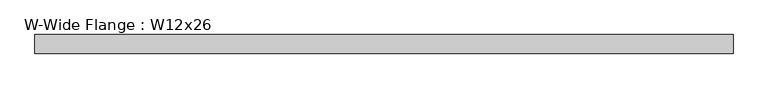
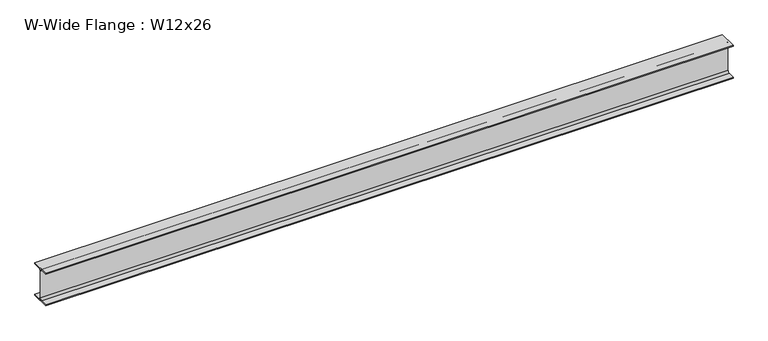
"""IFC4 building model written with IfcOpenShell, lengths in millimetres: beam geometry, W-Wide Flange : W12x26."""

import ifcopenshell
import ifcopenshell.guid

model = None  # the IFC model being written
_history = None  # IfcOwnerHistory: only IFC2X3 demands one
_inside = {}  # id of a spatial element -> (the spatial element, [elements in it])
_under = {}  # id of a project, library or spatial element -> (it, [spatial elements below it])
_declared = {}  # id of a project -> (the project, [libraries it declares])
_typed = {}  # id of a type object -> (the type object, [elements of that type])
_made_of = {}  # id of a material, layer set ... -> (it, [elements and type objects made of it])


def new_model(schema):
    """Start an empty IFC model of exactly this schema.

    Asked for "IFC4X3", IfcOpenShell would pick the latest addendum, in which some entities
    have other attributes; the version numbers below select the first issue.
    IFC2X3 requires an IfcOwnerHistory on every rooted entity: one is made here for all.
    """
    global model, _history
    if schema == "IFC4X3":
        model = ifcopenshell.file(schema_version=(4, 3, 0, 0))
    else:
        model = ifcopenshell.file(schema=schema)
    _inside.clear()
    _under.clear()
    _declared.clear()
    _typed.clear()
    _made_of.clear()
    _history = None
    if model.schema == "IFC2X3":
        org = make("IfcOrganization", Name="unknown")
        user = make(
            "IfcPersonAndOrganization",
            ThePerson=make("IfcPerson", FamilyName="unknown"),
            TheOrganization=org,
        )
        app = make(
            "IfcApplication",
            ApplicationDeveloper=org,
            Version="unknown",
            ApplicationFullName="unknown",
            ApplicationIdentifier="unknown",
        )
        _history = make(
            "IfcOwnerHistory",
            OwningUser=user,
            OwningApplication=app,
            ChangeAction="ADDED",
            CreationDate=0,
        )
    return model


def make(cls, **values):
    """One entity of the class cls with the attributes given. An attribute that is None is left unset."""
    return model.create_entity(
        cls, **{name: value for name, value in values.items() if value is not None}
    )


def rooted(cls, **values):
    """An entity with a GlobalId (a new one), such as an element, a storey or a relation."""
    return make(cls, GlobalId=ifcopenshell.guid.new(), OwnerHistory=_history, **values)


def si_unit(unit_type, name, prefix=None):
    """IfcSIUnit, for example si_unit("LENGTHUNIT", "METRE", prefix="MILLI")."""
    return make("IfcSIUnit", UnitType=unit_type, Prefix=prefix, Name=name)


def assignment(units):
    """IfcUnitAssignment: the units of a project."""
    return None if units is None else make("IfcUnitAssignment", Units=units)


def point(xyz):
    """IfcCartesianPoint."""
    return None if xyz is None else make("IfcCartesianPoint", Coordinates=xyz)


def direction(xyz):
    """IfcDirection."""
    return None if xyz is None else make("IfcDirection", DirectionRatios=xyz)


def frame(location, z_axis=None, x_axis=None):
    """IfcAxis2Placement3D, a coordinate frame: its origin and axes. An axis left out is left unset."""
    return make(
        "IfcAxis2Placement3D",
        Location=point(location),
        Axis=direction(z_axis),
        RefDirection=direction(x_axis),
    )


def frame_2d(location, x_axis=None):
    """IfcAxis2Placement2D, a coordinate frame in the plane: its origin and x axis."""
    return make(
        "IfcAxis2Placement2D", Location=point(location), RefDirection=direction(x_axis)
    )


def origin():
    """The frame at (0, 0, 0) with its axes left unset."""
    return frame((0.0, 0.0, 0.0))


def place(relative_to, where):
    """IfcLocalPlacement: puts the frame where relative to a parent placement (None: the world)."""
    return make(
        "IfcLocalPlacement", PlacementRelTo=relative_to, RelativePlacement=where
    )


def context(
    kind, dimensions, precision=None, world=None, true_north=None, identifier=None
):
    """IfcGeometricRepresentationContext, for example the 3D "Model" context."""
    return make(
        "IfcGeometricRepresentationContext",
        ContextIdentifier=identifier,
        ContextType=kind,
        CoordinateSpaceDimension=dimensions,
        Precision=precision,
        WorldCoordinateSystem=world,
        TrueNorth=true_north,
    )


def project(units=None, contexts=None):
    """IfcProject with its units and contexts."""
    return rooted(
        "IfcProject",
        Name="project",
        RepresentationContexts=contexts,
        UnitsInContext=assignment(units),
    )


def spatial(cls, under=None, at=None, **own):
    """A site, building, storey or space (cls), placed at a placement, below another one or the project."""
    s = rooted(cls, ObjectPlacement=at, **own)
    if under is not None:
        _under.setdefault(under.id(), (under, []))[1].append(s)
    return s


def polyline(points):
    """IfcPolyline through the points."""
    return make("IfcPolyline", Points=[point(p) for p in points])


def circle_curve(where, radius):
    """IfcCircle in the frame where."""
    return make("IfcCircle", Position=where, Radius=radius)


def trimmed(basis, trim1, trim2, sense, master):
    """IfcTrimmedCurve: the piece of a basis curve between two trims."""
    return make(
        "IfcTrimmedCurve",
        BasisCurve=basis,
        Trim1=trim1,
        Trim2=trim2,
        SenseAgreement=sense,
        MasterRepresentation=master,
    )


def segment(curve, same_sense, transition):
    """IfcCompositeCurveSegment."""
    return make(
        "IfcCompositeCurveSegment",
        Transition=transition,
        SameSense=same_sense,
        ParentCurve=curve,
    )


def composite_curve(segments, self_intersect=None):
    """IfcCompositeCurve: segments joined end to end."""
    return make("IfcCompositeCurve", Segments=segments, SelfIntersect=self_intersect)


def outline(outer, holes=None, kind="AREA"):
    """IfcArbitraryClosedProfileDef: a profile drawn as a closed curve; with holes, ...WithVoids."""
    if holes is None:
        return make("IfcArbitraryClosedProfileDef", ProfileType=kind, OuterCurve=outer)
    return make(
        "IfcArbitraryProfileDefWithVoids",
        ProfileType=kind,
        OuterCurve=outer,
        InnerCurves=holes,
    )


def extrude(swept, where, along, depth):
    """IfcExtrudedAreaSolid: the profile swept, set in the frame where, extruded along a direction by depth."""
    return make(
        "IfcExtrudedAreaSolid",
        SweptArea=swept,
        Position=where,
        ExtrudedDirection=direction(along),
        Depth=depth,
    )


def shape(context_of_items, identifier, shape_type, items):
    """IfcShapeRepresentation: the items that make up one representation, for example the "Body"."""
    return make(
        "IfcShapeRepresentation",
        ContextOfItems=context_of_items,
        RepresentationIdentifier=identifier,
        RepresentationType=shape_type,
        Items=items,
    )


def source(mapping_origin, context_of_items, identifier, shape_type, items):
    """IfcRepresentationMap: a shape defined once, which mapped items show again and again."""
    return make(
        "IfcRepresentationMap",
        MappingOrigin=mapping_origin,
        MappedRepresentation=shape(context_of_items, identifier, shape_type, items),
    )


def transform(
    local_origin,
    x_axis=None,
    y_axis=None,
    z_axis=None,
    scale=None,
    scale2=None,
    scale3=None,
    uniform=True,
):
    """IfcCartesianTransformationOperator3D, or its non-uniform kind. x_axis, y_axis, z_axis: its Axis1, 2, 3."""
    if uniform:
        return make(
            "IfcCartesianTransformationOperator3D",
            Axis1=direction(x_axis),
            Axis2=direction(y_axis),
            LocalOrigin=point(local_origin),
            Scale=scale,
            Axis3=direction(z_axis),
        )
    return make(
        "IfcCartesianTransformationOperator3DnonUniform",
        Axis1=direction(x_axis),
        Axis2=direction(y_axis),
        LocalOrigin=point(local_origin),
        Scale=scale,
        Axis3=direction(z_axis),
        Scale2=scale2,
        Scale3=scale3,
    )


def mapped(mapping_source, mapping_target):
    """IfcMappedItem: shows the shape of a source again, moved by a transform."""
    return make(
        "IfcMappedItem", MappingSource=mapping_source, MappingTarget=mapping_target
    )


def made_of(thing, what):
    """Note that an element or type object is made of a material, layer set ...; save() writes the relation."""
    if what is not None:
        _made_of.setdefault(what.id(), (what, []))[1].append(thing)
    return thing


def element(
    cls,
    number,
    at=None,
    inside=None,
    cuts=None,
    type_object=None,
    material=None,
    context=None,
    identifier="Body",
    shape_type=None,
    held_by="IfcProductDefinitionShape",
    body=None,
    shapes=None,
    **own,
):
    """One element of the class cls, such as IfcWall. Its Tag is "e" and its number.

    at: its placement. inside: the storey or other place that contains it. cuts: it is an
    opening in that element (IfcRelVoidsElement). A single representation is given by context,
    identifier, shape_type and body (its items); several are given by shapes. held_by: the class
    of the entity that holds the representations. save() writes the other relations.
    """
    e = rooted(cls, Tag="e%d" % number, ObjectPlacement=at, **own)
    if body is not None:
        shapes = [shape(context, identifier, shape_type, body)]
    if shapes is not None:
        e.Representation = make(held_by, Representations=shapes)
    if inside is not None:
        _inside.setdefault(inside.id(), (inside, []))[1].append(e)
    if cuts is not None:
        rooted(
            "IfcRelVoidsElement", RelatingBuildingElement=cuts, RelatedOpeningElement=e
        )
    if type_object is not None:
        _typed.setdefault(type_object.id(), (type_object, []))[1].append(e)
    return made_of(e, material)


def aggregate(whole, parts):
    """IfcRelAggregates: a whole, such as a stair, and the parts it consists of."""
    return rooted("IfcRelAggregates", RelatingObject=whole, RelatedObjects=parts)


def save(model, path):
    """Write the relations noted so far, then the file.

    IfcRelAggregates (storeys below a building ...), IfcRelContainedInSpatialStructure (elements
    in a storey), IfcRelDefinesByType, IfcRelAssociatesMaterial and IfcRelDeclares: one each for
    every whole, place, type object, material and project.
    """
    for whole, parts in _under.values():
        aggregate(whole, parts)
    for where, things in _inside.values():
        rooted(
            "IfcRelContainedInSpatialStructure",
            RelatedElements=things,
            RelatingStructure=where,
        )
    for kind, things in _typed.values():
        rooted("IfcRelDefinesByType", RelatedObjects=things, RelatingType=kind)
    for what, things in _made_of.values():
        rooted("IfcRelAssociatesMaterial", RelatedObjects=things, RelatingMaterial=what)
    for by, libraries in _declared.values():
        rooted("IfcRelDeclares", RelatingContext=by, RelatedDefinitions=libraries)
    model.write(path)


def w_wide_flange_w12x26_721b4380(model_context):
    return source(origin(), model_context, "Body", "SweptSolid", [
        extrude(outline(composite_curve([segment(polyline([(82.423, -145.288), (82.423, -154.94), (-82.423, -154.94), (-82.423, -145.288), (-20.2565, -145.288)]), True, "CONTINUOUS"), segment(trimmed(circle_curve(frame_2d((-20.2565, -127.9525)), 17.3355), [point((-20.2565, -145.288))], [point((-2.921, -127.9525))], True, "CARTESIAN"), True, "CONTINUOUS"), segment(polyline([(-2.921, -127.9525), (-2.921, 127.9525)]), True, "CONTINUOUS"), segment(trimmed(circle_curve(frame_2d((-20.2565, 127.9525)), 17.3355), [point((-2.921, 127.9525))], [point((-20.2565, 145.288))], True, "CARTESIAN"), True, "CONTINUOUS"), segment(polyline([(-20.2565, 145.288), (-82.423, 145.288), (-82.423, 154.94), (82.423, 154.94), (82.423, 145.288), (20.2565, 145.288)]), True, "CONTINUOUS"), segment(trimmed(circle_curve(frame_2d((20.2565, 127.9525)), 17.3355), [point((20.2565, 145.288))], [point((2.921, 127.9525))], True, "CARTESIAN"), True, "CONTINUOUS"), segment(polyline([(2.921, 127.9525), (2.921, -127.9525)]), True, "CONTINUOUS"), segment(trimmed(circle_curve(frame_2d((20.2565, -127.9525)), 17.3355), [point((2.921, -127.9525))], [point((20.2565, -145.288))], True, "CARTESIAN"), True, "CONTINUOUS"), segment(polyline([(20.2565, -145.288), (82.423, -145.288)]), True, "CONTINUOUS")], self_intersect=False)), frame((-3112.008, 0.0, 0.0), z_axis=(1.0, 0.0, 0.0), x_axis=(0.0, 1.0, 0.0)), (0.0, 0.0, 1.0), 6164.453),
    ])


if __name__ == "__main__":
    model = new_model("IFC4")
    model_context = context("Model", 3, world=origin())
    ifc_project = project(units=[si_unit("LENGTHUNIT", "METRE", prefix="MILLI")], contexts=[model_context])
    site = spatial("IfcSite", under=ifc_project)
    building = spatial("IfcBuilding", under=site)
    placement = place(None, origin())
    w_wide_flange_w12x26_shape = w_wide_flange_w12x26_721b4380(model_context)
    element("IfcBeam", 1, ObjectType="W-Wide Flange : W12x26", at=placement, inside=building, context=model_context, shape_type="MappedRepresentation", body=[
        mapped(w_wide_flange_w12x26_shape, transform((0.0, 0.0, 0.0), x_axis=(1.0, 0.0, 0.0), y_axis=(0.0, 1.0, 0.0), z_axis=(0.0, 0.0, 1.0))),
    ])
    save(model, "model.ifc")
